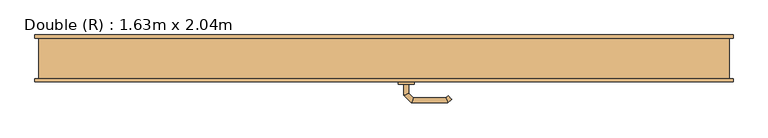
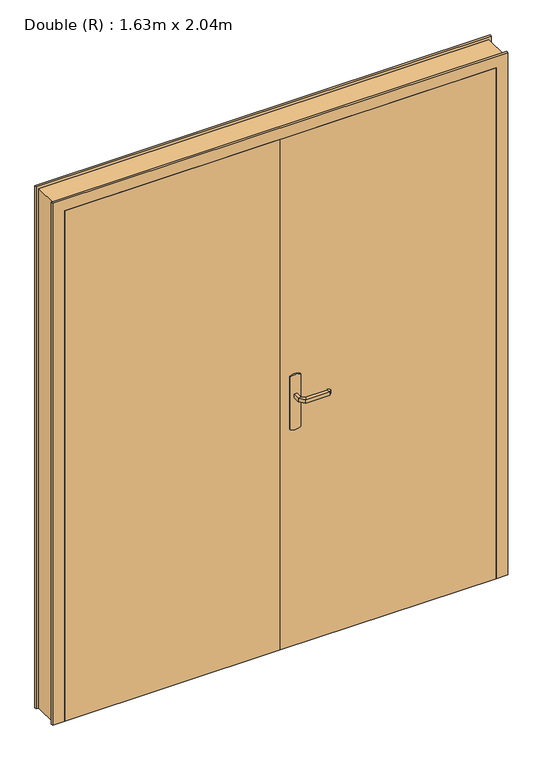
"""IFC4 building model written with IfcOpenShell, lengths in millimetres: door geometry, Double (R) : 1.63m x 2.04m."""

from ifc_helpers import new_model, si_unit, point, frame, frame_2d, origin, origin_with_axes, place, context, project, spatial, polyline, circle_curve, ellipse_curve, trimmed, segment, composite_curve, outline, extrude, faceted_brep, source, transform, mapped, element, save
from ifc_brep_helpers import plane_surface, cylinder_surface, advanced_brep


def double_r_1_63m_x_2_04m_345aba02(model_context):
    return source(origin(), model_context, "Body", "SolidModel", [
        advanced_brep(
        [(61.0, -13.0, 993.0), (61.0, -13.0, 1007.0), (49.0, -13.0, 1007.0), (49.0, -13.0, 993.0), (61.0, 9.4852045, 993.0), (61.0, 9.4852045, 1007.0), (49.0, 14.4557673, 1007.0), (49.0, 14.4557673, 993.0), (72.4852814, 20.9704859, 993.0), (72.4852814, 20.9704859, 1007.0), (67.5147186, 32.9704859, 1007.0), (67.5147186, 32.9704859, 993.0), (152.5605023, 20.9704859, 993.0), (152.5605023, 20.9704859, 1007.0), (157.531065, 32.9704859, 1007.0), (157.531065, 32.9704859, 993.0), (157.8742108, 15.6567774, 993.0), (166.3594922, 24.1420588, 993.0), (166.3594922, 24.1420588, 1007.0), (157.8742108, 15.6567774, 1007.0)],
        [
            (0, 1),
            (1, 2, circle_curve(frame((55.0, -13.0, 986.9542278), z_axis=(0.0, -1.0, 0.0), x_axis=(-1.0, 0.0, 0.0)), 20.9244589)),
            (2, 3),
            (3, 0, circle_curve(frame((55.0, -13.0, 1013.0457722), z_axis=(0.0, -1.0, 0.0), x_axis=(-1.0, 0.0, 0.0)), 20.9244589)),
            (0, 4),
            (4, 5),
            (5, 1),
            (5, 6, ellipse_curve(frame((55.0, 11.9704859, 986.9542278), z_axis=(-0.38268343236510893, -0.9238795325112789, 0.0), x_axis=(0.9238795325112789, -0.3826834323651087, 0.0)), 22.6484711, 20.9244589)),
            (6, 2),
            (6, 7),
            (7, 3),
            (7, 4, ellipse_curve(frame((55.0, 11.9704859, 1013.0457722), z_axis=(-0.38268343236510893, -0.9238795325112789, 0.0), x_axis=(0.9238795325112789, -0.3826834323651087, 0.0)), 22.6484711, 20.9244589)),
            (4, 8),
            (8, 9),
            (9, 5),
            (9, 10, ellipse_curve(frame((70.0, 26.9704859, 986.9542278), z_axis=(-0.9238795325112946, -0.38268343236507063, 0.0), x_axis=(0.3826834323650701, -0.9238795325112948, 0.0)), 22.6484711, 20.9244589)),
            (10, 6),
            (10, 11),
            (11, 7),
            (11, 8, ellipse_curve(frame((70.0, 26.9704859, 1013.0457722), z_axis=(-0.9238795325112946, -0.38268343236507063, 0.0), x_axis=(0.3826834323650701, -0.9238795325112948, 0.0)), 22.6484711, 20.9244589)),
            (8, 12),
            (12, 13),
            (13, 9),
            (13, 14, ellipse_curve(frame((155.0457837, 26.9704859, 986.9542278), z_axis=(-0.9238795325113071, 0.38268343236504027, 0.0), x_axis=(-0.38268343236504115, -0.9238795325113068, 0.0)), 22.6484711, 20.9244589)),
            (14, 10),
            (14, 15),
            (15, 11),
            (15, 12, ellipse_curve(frame((155.0457837, 26.9704859, 1013.0457722), z_axis=(-0.9238795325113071, 0.38268343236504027, 0.0), x_axis=(-0.38268343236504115, -0.9238795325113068, 0.0)), 22.6484711, 20.9244589)),
            (16, 17, circle_curve(frame((162.1168515, 19.8994181, 1013.0457722), z_axis=(0.7071067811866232, -0.7071067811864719, 0.0), x_axis=(0.7071067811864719, 0.7071067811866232, 0.0)), 20.9244589)),
            (17, 18),
            (18, 19, circle_curve(frame((162.1168515, 19.8994181, 986.9542278), z_axis=(0.7071067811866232, -0.7071067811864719, 0.0), x_axis=(0.7071067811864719, 0.7071067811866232, 0.0)), 20.9244589)),
            (19, 16),
            (12, 16),
            (19, 13),
            (18, 14),
            (17, 15),
        ],
        [
            plane_surface(frame((45.7804555, -13.0, 1000.0), z_axis=(0.0, -1.0, 0.0), x_axis=(0.0, 0.0, 1.0))),
            plane_surface(frame((61.0, -13.0, 993.0), z_axis=(1.0, 0.0, 0.0), x_axis=(0.0, 1.0, 0.0))),
            cylinder_surface(frame((55.0, -13.0, 986.9542278), z_axis=(0.0, -1.0, 0.0), x_axis=(-1.0, 0.0, 0.0)), 20.9244589),
            plane_surface(frame((49.0, -13.0, 1007.0), z_axis=(-1.0, 0.0, 0.0), x_axis=(0.0, 1.0, 0.0))),
            cylinder_surface(frame((55.0, -13.0, 1013.0457722), z_axis=(0.0, -1.0, 0.0), x_axis=(-1.0, 0.0, 0.0)), 20.9244589),
            plane_surface(frame((61.0, 9.4852045, 993.0), z_axis=(0.707106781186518, -0.707106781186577, 0.0), x_axis=(0.707106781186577, 0.707106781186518, 0.0))),
            cylinder_surface(frame((55.0, 11.9704859, 986.9542278), z_axis=(-0.7071067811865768, -0.7071067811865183, 0.0), x_axis=(-0.7071067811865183, 0.7071067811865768, 0.0)), 20.9244589),
            plane_surface(frame((49.0, 14.4557673, 1007.0), z_axis=(-0.7071067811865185, 0.7071067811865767, 0.0), x_axis=(0.7071067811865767, 0.7071067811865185, 0.0))),
            cylinder_surface(frame((55.0, 11.9704859, 1013.0457722), z_axis=(-0.7071067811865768, -0.7071067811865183, 0.0), x_axis=(-0.7071067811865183, 0.7071067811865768, 0.0)), 20.9244589),
            plane_surface(frame((72.4852814, 20.9704859, 993.0), z_axis=(0.0, -1.0, 0.0), x_axis=(1.0, 0.0, 0.0))),
            cylinder_surface(frame((70.0, 26.9704859, 986.9542278), z_axis=(-1.0, 0.0, 0.0), x_axis=(0.0, 1.0, 0.0)), 20.9244589),
            plane_surface(frame((67.5147186, 32.9704859, 1007.0), z_axis=(0.0, 1.0, 0.0), x_axis=(1.0, 0.0, 0.0))),
            cylinder_surface(frame((70.0, 26.9704859, 1013.0457722), z_axis=(-1.0, 0.0, 0.0), x_axis=(0.0, 1.0, 0.0)), 20.9244589),
            plane_surface(frame((162.1168515, 19.8994181, 990.7804555), z_axis=(0.7071067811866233, -0.7071067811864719, 0.0), x_axis=(0.7071067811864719, 0.7071067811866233, 0.0))),
            plane_surface(frame((152.5605023, 20.9704859, 993.0), z_axis=(-0.707106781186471, -0.7071067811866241, 0.0), x_axis=(0.7071067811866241, -0.707106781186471, 0.0))),
            cylinder_surface(frame((155.0457837, 26.9704859, 986.9542278), z_axis=(-0.7071067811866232, 0.7071067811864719, 0.0), x_axis=(0.7071067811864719, 0.7071067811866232, 0.0)), 20.9244589),
            plane_surface(frame((157.531065, 32.9704859, 1007.0), z_axis=(0.7071067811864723, 0.7071067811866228, 0.0), x_axis=(0.7071067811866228, -0.7071067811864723, 0.0))),
            cylinder_surface(frame((155.0457837, 26.9704859, 1013.0457722), z_axis=(-0.7071067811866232, 0.7071067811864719, 0.0), x_axis=(0.7071067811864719, 0.7071067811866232, 0.0)), 20.9244589),
        ],
        [
            (0, [[1, 2, 3, 4]]),
            (1, [[-1, 5, 6, 7]]),
            (2, [[-2, -7, 8, 9]]),
            (3, [[-3, -9, 10, 11]]),
            (4, [[-4, -11, 12, -5]]),
            (5, [[-6, 13, 14, 15]]),
            (6, [[-8, -15, 16, 17]]),
            (7, [[-10, -17, 18, 19]]),
            (8, [[-12, -19, 20, -13]]),
            (9, [[-14, 21, 22, 23]]),
            (10, [[-16, -23, 24, 25]]),
            (11, [[-18, -25, 26, 27]]),
            (12, [[-20, -27, 28, -21]]),
            (13, [[29, 30, 31, 32]]),
            (14, [[-22, 33, -32, 34]]),
            (15, [[-24, -34, -31, 35]]),
            (16, [[-26, -35, -30, 36]]),
            (17, [[-28, -36, -29, -33]]),
        ],
    ),
        advanced_brep(
        [(49.0, -63.0, 1007.0), (61.0, -63.0, 1007.0), (61.0, -63.0, 993.0), (49.0, -63.0, 993.0), (49.0, -90.6509507, 1007.0), (61.0, -85.680388, 1007.0), (61.0, -85.680388, 993.0), (49.0, -90.6509507, 993.0), (67.37721, -109.0281607, 1007.0), (72.3477727, -97.0281607, 1007.0), (72.3477727, -97.0281607, 993.0), (67.37721, -109.0281607, 993.0), (157.503922, -109.0281607, 1007.0), (152.5333592, -97.0281607, 1007.0), (152.5333592, -97.0281607, 993.0), (157.503922, -109.0281607, 993.0), (166.3323491, -100.1997336, 1007.0), (166.3323491, -100.1997336, 993.0), (157.8470677, -91.7144522, 993.0), (157.8470677, -91.7144522, 1007.0)],
        [
            (0, 1, circle_curve(frame((55.0, -63.0, 986.9542278), z_axis=(0.0, 1.0, 0.0), x_axis=(1.0, 0.0, 0.0)), 20.9244589)),
            (1, 2),
            (2, 3, circle_curve(frame((55.0, -63.0, 1013.0457722), z_axis=(0.0, 1.0, 0.0), x_axis=(1.0, 0.0, 0.0)), 20.9244589)),
            (3, 0),
            (0, 4),
            (4, 5, ellipse_curve(frame((55.0, -88.1656693, 986.9542278), z_axis=(-0.3826834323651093, 0.9238795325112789, 0.0), x_axis=(0.9238795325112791, 0.38268343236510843, 0.0)), 22.6484711, 20.9244589)),
            (5, 1),
            (5, 6),
            (6, 2),
            (6, 7, ellipse_curve(frame((55.0, -88.1656693, 1013.0457722), z_axis=(-0.3826834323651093, 0.9238795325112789, 0.0), x_axis=(0.9238795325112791, 0.38268343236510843, 0.0)), 22.6484711, 20.9244589)),
            (7, 3),
            (7, 4),
            (4, 8),
            (8, 9, ellipse_curve(frame((69.8624914, -103.0281607, 986.9542278), z_axis=(-0.9238795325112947, 0.38268343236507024, 0.0), x_axis=(0.3826834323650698, 0.9238795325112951, 0.0)), 22.6484711, 20.9244589)),
            (9, 5),
            (9, 10),
            (10, 6),
            (10, 11, ellipse_curve(frame((69.8624914, -103.0281607, 1013.0457722), z_axis=(-0.9238795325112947, 0.38268343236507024, 0.0), x_axis=(0.3826834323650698, 0.9238795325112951, 0.0)), 22.6484711, 20.9244589)),
            (11, 7),
            (11, 8),
            (8, 12),
            (12, 13, ellipse_curve(frame((155.0186406, -103.0281607, 986.9542278), z_axis=(-0.9238795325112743, -0.3826834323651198, 0.0), x_axis=(-0.38268343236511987, 0.9238795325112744, 0.0)), 22.6484711, 20.9244589)),
            (13, 9),
            (13, 14),
            (14, 10),
            (14, 15, ellipse_curve(frame((155.0186406, -103.0281607, 1013.0457722), z_axis=(-0.9238795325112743, -0.3826834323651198, 0.0), x_axis=(-0.38268343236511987, 0.9238795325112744, 0.0)), 22.6484711, 20.9244589)),
            (15, 11),
            (15, 12),
            (16, 17),
            (17, 18, circle_curve(frame((162.0897084, -95.9570929, 1013.0457722), z_axis=(0.7071067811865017, 0.7071067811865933, 0.0), x_axis=(-0.7071067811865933, 0.7071067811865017, 0.0)), 20.9244589)),
            (18, 19),
            (19, 16, circle_curve(frame((162.0897084, -95.9570929, 986.9542278), z_axis=(0.7071067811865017, 0.7071067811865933, 0.0), x_axis=(-0.7071067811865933, 0.7071067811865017, 0.0)), 20.9244589)),
            (12, 16),
            (19, 13),
            (18, 14),
            (17, 15),
        ],
        [
            plane_surface(frame((45.7804555, -63.0, 1000.0), z_axis=(0.0, 1.0, 0.0), x_axis=(0.0, 0.0, -1.0))),
            cylinder_surface(frame((55.0, -63.0, 986.9542278), z_axis=(0.0, 1.0, 0.0), x_axis=(1.0, 0.0, 0.0)), 20.9244589),
            plane_surface(frame((61.0, -63.0, 1007.0), z_axis=(1.0, 0.0, 0.0), x_axis=(0.0, -1.0, 0.0))),
            cylinder_surface(frame((55.0, -63.0, 1013.0457722), z_axis=(0.0, 1.0, 0.0), x_axis=(1.0, 0.0, 0.0)), 20.9244589),
            plane_surface(frame((49.0, -63.0, 993.0), z_axis=(-1.0, 0.0, 0.0), x_axis=(0.0, -1.0, 0.0))),
            cylinder_surface(frame((55.0, -88.1656693, 986.9542278), z_axis=(-0.7071067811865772, 0.7071067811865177, 0.0), x_axis=(0.7071067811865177, 0.7071067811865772, 0.0)), 20.9244589),
            plane_surface(frame((61.0, -85.680388, 1007.0), z_axis=(0.7071067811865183, 0.7071067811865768, 0.0), x_axis=(0.7071067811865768, -0.7071067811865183, 0.0))),
            cylinder_surface(frame((55.0, -88.1656693, 1013.0457722), z_axis=(-0.7071067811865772, 0.7071067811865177, 0.0), x_axis=(0.7071067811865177, 0.7071067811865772, 0.0)), 20.9244589),
            plane_surface(frame((49.0, -90.6509507, 993.0), z_axis=(-0.707106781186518, -0.707106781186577, 0.0), x_axis=(0.707106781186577, -0.707106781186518, 0.0))),
            cylinder_surface(frame((69.8624914, -103.0281607, 986.9542278), z_axis=(-1.0, 0.0, 0.0), x_axis=(0.0, 1.0, 0.0)), 20.9244589),
            plane_surface(frame((72.3477727, -97.0281607, 1007.0), z_axis=(0.0, 1.0, 0.0), x_axis=(1.0, 0.0, 0.0))),
            cylinder_surface(frame((69.8624914, -103.0281607, 1013.0457722), z_axis=(-1.0, 0.0, 0.0), x_axis=(0.0, 1.0, 0.0)), 20.9244589),
            plane_surface(frame((67.37721, -109.0281607, 993.0), z_axis=(0.0, -1.0, 0.0), x_axis=(1.0, 0.0, 0.0))),
            plane_surface(frame((162.0897084, -95.9570929, 1009.2195445), z_axis=(0.7071067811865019, 0.7071067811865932, 0.0), x_axis=(0.7071067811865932, -0.7071067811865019, 0.0))),
            cylinder_surface(frame((155.0186406, -103.0281607, 986.9542278), z_axis=(-0.7071067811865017, -0.7071067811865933, 0.0), x_axis=(-0.7071067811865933, 0.7071067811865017, 0.0)), 20.9244589),
            plane_surface(frame((152.5333592, -97.0281607, 1007.0), z_axis=(-0.7071067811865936, 0.7071067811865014, 0.0), x_axis=(0.7071067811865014, 0.7071067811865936, 0.0))),
            cylinder_surface(frame((155.0186406, -103.0281607, 1013.0457722), z_axis=(-0.7071067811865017, -0.7071067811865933, 0.0), x_axis=(-0.7071067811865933, 0.7071067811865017, 0.0)), 20.9244589),
            plane_surface(frame((157.503922, -109.0281607, 993.0), z_axis=(0.707106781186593, -0.7071067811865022, 0.0), x_axis=(0.7071067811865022, 0.707106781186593, 0.0))),
        ],
        [
            (0, [[1, 2, 3, 4]]),
            (1, [[-1, 5, 6, 7]]),
            (2, [[-2, -7, 8, 9]]),
            (3, [[-3, -9, 10, 11]]),
            (4, [[-4, -11, 12, -5]]),
            (5, [[-6, 13, 14, 15]]),
            (6, [[-8, -15, 16, 17]]),
            (7, [[-10, -17, 18, 19]]),
            (8, [[-12, -19, 20, -13]]),
            (9, [[-14, 21, 22, 23]]),
            (10, [[-16, -23, 24, 25]]),
            (11, [[-18, -25, 26, 27]]),
            (12, [[-20, -27, 28, -21]]),
            (13, [[29, 30, 31, 32]]),
            (14, [[-22, 33, -32, 34]]),
            (15, [[-24, -34, -31, 35]]),
            (16, [[-26, -35, -30, 36]]),
            (17, [[-28, -36, -29, -33]]),
        ],
    ),
        extrude(outline(composite_curve([segment(trimmed(circle_curve(frame_2d((1045.3589838, 55.0)), 40.0), [point((1080.0, 75.0))], [point((1080.0, 35.0))], False, "CARTESIAN"), True, "CONTINUOUS"), segment(polyline([(1080.0, 35.0), (870.0, 35.0)]), True, "CONTINUOUS"), segment(trimmed(circle_curve(frame_2d((904.6410162, 55.0)), 40.0), [point((870.0, 35.0))], [point((870.0, 75.0))], False, "CARTESIAN"), True, "CONTINUOUS"), segment(polyline([(870.0, 75.0), (1080.0, 75.0)]), True, "CONTINUOUS")], self_intersect=False)), frame((0.0, -18.0, 0.0), z_axis=(0.0, 1.0, 0.0), x_axis=(0.0, 0.0, 1.0)), (0.0, 0.0, 1.0), 5.0),
        extrude(outline(composite_curve([segment(trimmed(circle_curve(frame_2d((904.6410162, 55.0)), 40.0), [point((870.0, 35.0))], [point((870.0, 75.0))], False, "CARTESIAN"), True, "CONTINUOUS"), segment(polyline([(870.0, 75.0), (1080.0, 75.0)]), True, "CONTINUOUS"), segment(trimmed(circle_curve(frame_2d((1045.3589838, 55.0)), 40.0), [point((1080.0, 75.0))], [point((1080.0, 35.0))], False, "CARTESIAN"), True, "CONTINUOUS"), segment(polyline([(1080.0, 35.0), (870.0, 35.0)]), True, "CONTINUOUS")], self_intersect=False)), frame((0.0, -63.0, 0.0), z_axis=(0.0, 1.0, 0.0), x_axis=(0.0, 0.0, 1.0)), (0.0, 0.0, 1.0), 5.0),
        faceted_brep([(-850.0, -50.0, 0.0), (-850.0, 50.0, 0.0), (-860.0, 50.0, 0.0), (-860.0, 58.0, 0.0), (-800.0, 58.0, 0.0), (-800.0, -18.0, 0.0), (-815.0, -18.0, 0.0), (-815.0, -58.0, 0.0), (-860.0, -58.0, 0.0), (-860.0, -50.0, 0.0), (-850.0, -50.0, 2075.0), (-850.0, 50.0, 2075.0), (850.0, 50.0, 2075.0), (850.0, 50.0, 0.0), (860.0, 50.0, 0.0), (860.0, 50.0, 2085.0), (-860.0, 50.0, 2085.0), (-860.0, 58.0, 2085.0), (860.0, 58.0, 2085.0), (860.0, 58.0, 0.0), (800.0, 58.0, 0.0), (800.0, 58.0, 2025.0), (-800.0, 58.0, 2025.0), (-800.0, -18.0, 2025.0), (800.0, -18.0, 2025.0), (800.0, -18.0, 0.0), (815.0, -18.0, 0.0), (815.0, -18.0, 2040.0), (-815.0, -18.0, 2040.0), (-815.0, -58.0, 2040.0), (815.0, -58.0, 2040.0), (815.0, -58.0, 0.0), (860.0, -58.0, 0.0), (860.0, -58.0, 2085.0), (-860.0, -58.0, 2085.0), (-860.0, -50.0, 2085.0), (860.0, -50.0, 2085.0), (860.0, -50.0, 0.0), (850.0, -50.0, 0.0), (850.0, -50.0, 2075.0)], [[[0, 1, 2, 3, 4, 5, 6, 7, 8, 9]], [[1, 0, 10, 11]], [[2, 1, 11, 12, 13, 14, 15, 16]], [[3, 2, 16, 17]], [[4, 3, 17, 18, 19, 20, 21, 22]], [[5, 4, 22, 23]], [[6, 5, 23, 24, 25, 26, 27, 28]], [[7, 6, 28, 29]], [[8, 7, 29, 30, 31, 32, 33, 34]], [[9, 8, 34, 35]], [[0, 9, 35, 36, 37, 38, 39, 10]], [[12, 39, 38, 13]], [[38, 37, 32, 31, 26, 25, 20, 19, 14, 13]], [[18, 15, 14, 19]], [[24, 21, 20, 25]], [[30, 27, 26, 31]], [[36, 33, 32, 37]], [[11, 10, 39, 12]], [[17, 16, 15, 18]], [[23, 22, 21, 24]], [[29, 28, 27, 30]], [[35, 34, 33, 36]]]),
        extrude(outline(polyline([(815.0, -58.0), (0.0, -58.0), (0.0, -18.0), (815.0, -18.0), (815.0, -58.0)])), origin_with_axes(), (0.0, 0.0, 1.0), 2040.0),
        extrude(outline(polyline([(0.0, -58.0), (-815.0, -58.0), (-815.0, -18.0), (0.0, -18.0), (0.0, -58.0)])), origin_with_axes(), (0.0, 0.0, 1.0), 2040.0),
    ])


if __name__ == "__main__":
    model = new_model("IFC4")
    model_context = context("Model", 3, world=origin())
    ifc_project = project(units=[si_unit("LENGTHUNIT", "METRE", prefix="MILLI")], contexts=[model_context])
    site = spatial("IfcSite", under=ifc_project)
    building = spatial("IfcBuilding", under=site)
    placement = place(None, origin())
    double_r_1_63m_x_2_04m_shape = double_r_1_63m_x_2_04m_345aba02(model_context)
    element("IfcDoor", 1, ObjectType="Double (R) : 1.63m x 2.04m", at=placement, inside=building, context=model_context, shape_type="MappedRepresentation", body=[
        mapped(double_r_1_63m_x_2_04m_shape, transform((0.0, 0.0, 0.0), x_axis=(1.0, 0.0, 0.0), y_axis=(0.0, 1.0, 0.0), z_axis=(0.0, 0.0, 1.0))),
    ])
    save(model, "model.ifc")
